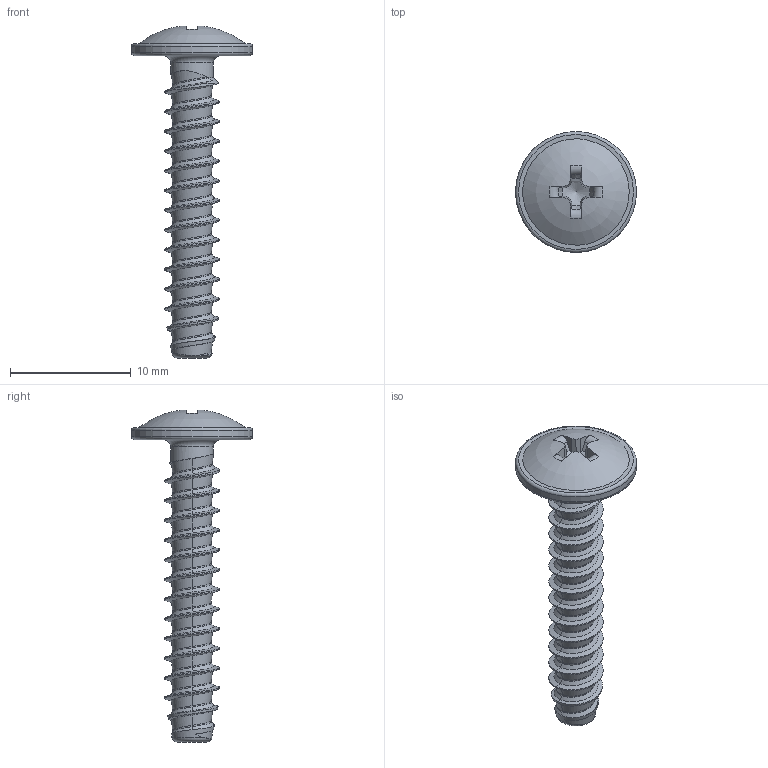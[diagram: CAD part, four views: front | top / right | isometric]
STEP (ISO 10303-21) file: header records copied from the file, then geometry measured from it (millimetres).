
FILE_DESCRIPTION(/* description */ (''),/* implementation_level */ '2;1');
FILE_NAME(/* name */ 'KN6031-STSplus-45x25-H2.step',/* time_stamp */ '2017-09-29T13:16:23+02:00',/* author */ (''),/* organization */ (''),/* preprocessor_version */ 'ST-DEVELOPER v16',/* originating_system */ 'SIEMENS PLM Software NX 10.0',/* authorisation */ '');
FILE_SCHEMA (('AUTOMOTIVE_DESIGN { 1 0 10303 214 3 1 1 1 }'));
Length unit declared in the file: millimetre
Products named in the file (1): KN6031-STSplus-45x25-H2
Bounding box: 10 x 10 x 27.45 mm (x, y, z)
Volume: 358.9 mm3; surface area: 600.8 mm2
Topology: 1 solids, 1 shells, 112 faces, 270 edges, 161 vertices
Faces by surface type: bspline 74, plane 19, torus 8, cone 7, cylinder 3, sphere 1
Full cylindrical faces by diameter (mm): 3.53 x1, 10 x1
Entity records: 7154 total; most frequent: CARTESIAN_POINT 5077, ORIENTED_EDGE 512, EDGE_CURVE 256, DIRECTION 240, VERTEX_POINT 156, B_SPLINE_CURVE_WITH_KNOTS 134, EDGE_LOOP 121, ADVANCED_FACE 112
